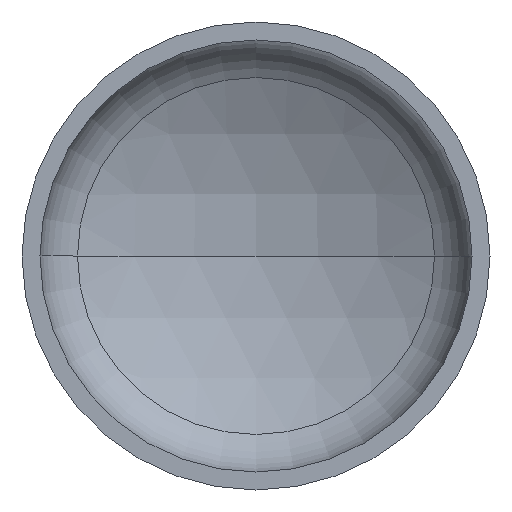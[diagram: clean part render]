
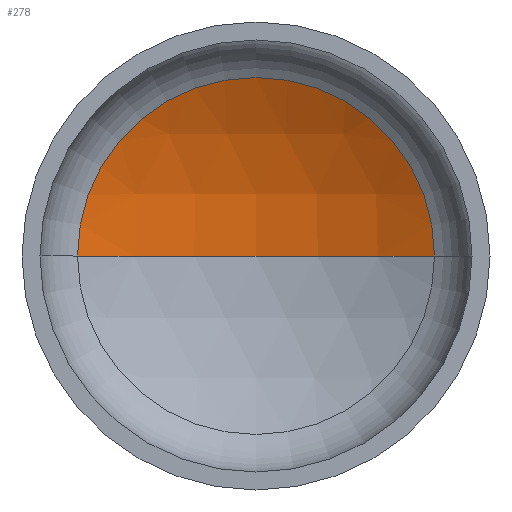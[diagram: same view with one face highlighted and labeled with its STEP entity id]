
A CAD part, front view. The second image highlights one B-rep face of the part: STEP entity #278.
In plain terms, the highlighted spherical face has radius 480 mm.
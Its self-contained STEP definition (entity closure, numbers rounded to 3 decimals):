
#1 = ORIENTED_EDGE ( 'NONE', *, *, #84, .T. ) ;
#12 = AXIS2_PLACEMENT_3D ( 'NONE', #222, #176, #246 ) ;
#40 = AXIS2_PLACEMENT_3D ( 'NONE', #194, #356, #217 ) ;
#41 = AXIS2_PLACEMENT_3D ( 'NONE', #285, #136, #309 ) ;
#43 = AXIS2_PLACEMENT_3D ( 'NONE', #377, #239, #396 ) ;
#44 = VERTEX_POINT ( 'NONE', #204 ) ;
#48 = ORIENTED_EDGE ( 'NONE', *, *, #87, .F. ) ;
#83 = EDGE_CURVE ( 'NONE', #44, #97, #288, .T. ) ;
#84 = EDGE_CURVE ( 'NONE', #132, #44, #164, .T. ) ;
#87 = EDGE_CURVE ( 'NONE', #132, #97, #228, .T. ) ;
#97 = VERTEX_POINT ( 'NONE', #263 ) ;
#127 = FACE_OUTER_BOUND ( 'NONE', #143, .T. ) ;
#132 = VERTEX_POINT ( 'NONE', #218 ) ;
#136 = DIRECTION ( 'NONE',  ( 0., 0., -1. ) ) ;
#143 = EDGE_LOOP ( 'NONE', ( #48, #1, #305 ) ) ;
#164 = CIRCLE ( 'NONE', #41, 480. ) ;
#176 = DIRECTION ( 'NONE',  ( 0., 0., -1. ) ) ;
#194 = CARTESIAN_POINT ( 'NONE',  ( 0., -271.056, 0. ) ) ;
#204 = CARTESIAN_POINT ( 'NONE',  ( 228.866, 150.869, 0. ) ) ;
#217 = DIRECTION ( 'NONE',  ( 1., 0., 0. ) ) ;
#218 = CARTESIAN_POINT ( 'NONE',  ( 0., 208.944, 0. ) ) ;
#222 = CARTESIAN_POINT ( 'NONE',  ( 0., -271.056, 0. ) ) ;
#228 = CIRCLE ( 'NONE', #40, 480. ) ;
#239 = DIRECTION ( 'NONE',  ( 0., -1., 0. ) ) ;
#246 = DIRECTION ( 'NONE',  ( -1., 0., 0. ) ) ;
#263 = CARTESIAN_POINT ( 'NONE',  ( -228.866, 150.869, 0. ) ) ;
#278 = ADVANCED_FACE ( 'NONE', ( #127 ), #328, .F. ) ;
#285 = CARTESIAN_POINT ( 'NONE',  ( 0., -271.056, 0. ) ) ;
#288 = CIRCLE ( 'NONE', #43, 228.866 ) ;
#305 = ORIENTED_EDGE ( 'NONE', *, *, #83, .T. ) ;
#309 = DIRECTION ( 'NONE',  ( -1., 0., 0. ) ) ;
#328 = SPHERICAL_SURFACE ( 'NONE', #12, 480. ) ;
#356 = DIRECTION ( 'NONE',  ( 0., 0., 1. ) ) ;
#377 = CARTESIAN_POINT ( 'NONE',  ( 0., 150.869, 0. ) ) ;
#396 = DIRECTION ( 'NONE',  ( 1., 0., 0. ) ) ;
